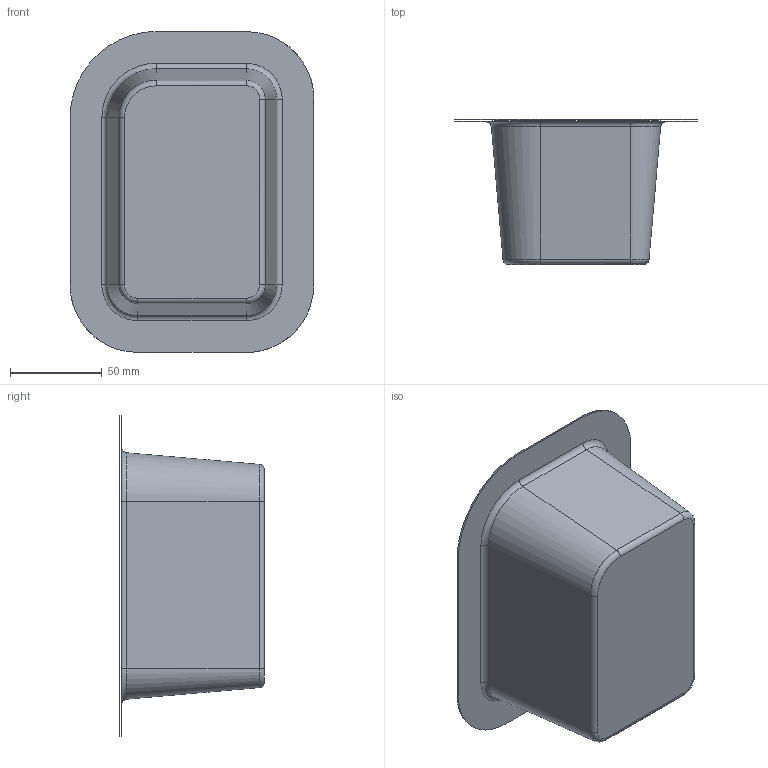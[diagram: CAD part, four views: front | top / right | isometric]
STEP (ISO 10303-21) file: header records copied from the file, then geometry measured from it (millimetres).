
FILE_DESCRIPTION(('CATIA V5 STEP Exchange'),'2;1');
FILE_NAME('C:\_Andres\UNIVERSIDAD\IQS\ASIGNATURAS\DAO\Controles\1617\c3\2inicio\Pares_Guanybens_control3_v21.stp','2017-02-17T14:22:09+00:00',('none'),('none'),'CATIA Version 5-6 Release 2014 SP1 HF18','CATIA V5 STEP AP203','none');
FILE_SCHEMA(('CONFIG_CONTROL_DESIGN'));
Length unit declared in the file: millimetre
Products named in the file (1): Pares_Guanybens_control3_v21
Bounding box: 132.6 x 78.7 x 174.6 mm (x, y, z)
Surface area: 71253.8 mm2 (no closed solid volume)
Topology: 0 solids, 2 shells, 27 faces, 80 edges, 57 vertices
Faces by surface type: bspline 16, cylinder 8, plane 3
Entity records: 1925 total; most frequent: CARTESIAN_POINT 1329, ORIENTED_EDGE 128, EDGE_CURVE 72, B_SPLINE_CURVE_WITH_KNOTS 54, DIRECTION 50, VERTEX_POINT 48, EDGE_LOOP 28, ADVANCED_FACE 27
